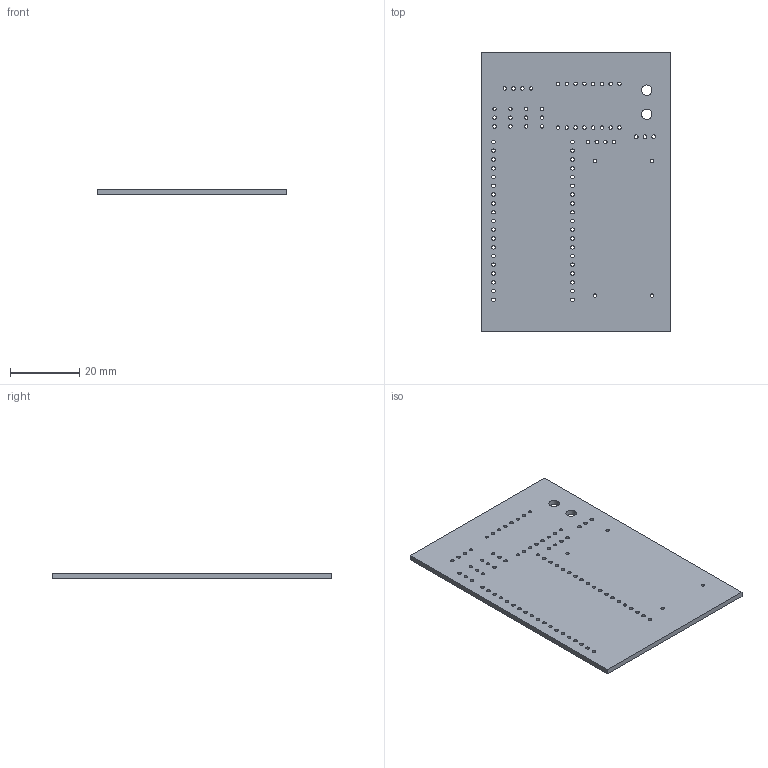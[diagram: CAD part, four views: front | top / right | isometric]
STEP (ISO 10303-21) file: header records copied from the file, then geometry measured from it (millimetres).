
FILE_DESCRIPTION(/* description */ ('STEP AP242','CAx-IF Rec.Pracs.---Representation and Presentation of Product Manufacturing Information (PMI)---4.0---2014-10-13','CAx-IF Rec.Pracs.---3D Tessellated Geometry---0.4---2014-09-14','2;1'),/* implementation_level */ '2;1');
FILE_NAME(/* name */ 'Arm Assembly - Heptic Feedback Arm_PCB',/* time_stamp */ '2025-06-20T22:34:10Z',/* author */ (''),/* organization */ (''),/* preprocessor_version */ 'ST-DEVELOPER v20',/* originating_system */ 'ONSHAPE BY PTC INC, 1.199',/* authorisation */ ' ');
FILE_SCHEMA (('AP242_MANAGED_MODEL_BASED_3D_ENGINEERING_MIM_LF { 1 0 10303 442 1 1 4 }'));
Length unit declared in the file: metre
Products named in the file (1): Heptic Feedback Arm_PCB
Bounding box: 55 x 81 x 1.51 mm (x, y, z)
Volume: 6604.3 mm3; surface area: 9581.3 mm2
Topology: 1 solids, 1 shells, 89 faces, 261 edges, 174 vertices
Faces by surface type: cylinder 83, plane 6
Full cylindrical faces by diameter (mm): 1 x20, 1.02 x20, 1.04 x38, 1.1 x3, 3 x2
Entity records: 3000 total; most frequent: DIRECTION 524, CARTESIAN_POINT 442, ORIENTED_EDGE 356, EDGE_LOOP 338, FACE_BOUND 338, AXIS2_PLACEMENT_3D 256, EDGE_CURVE 178, VERTEX_POINT 174
